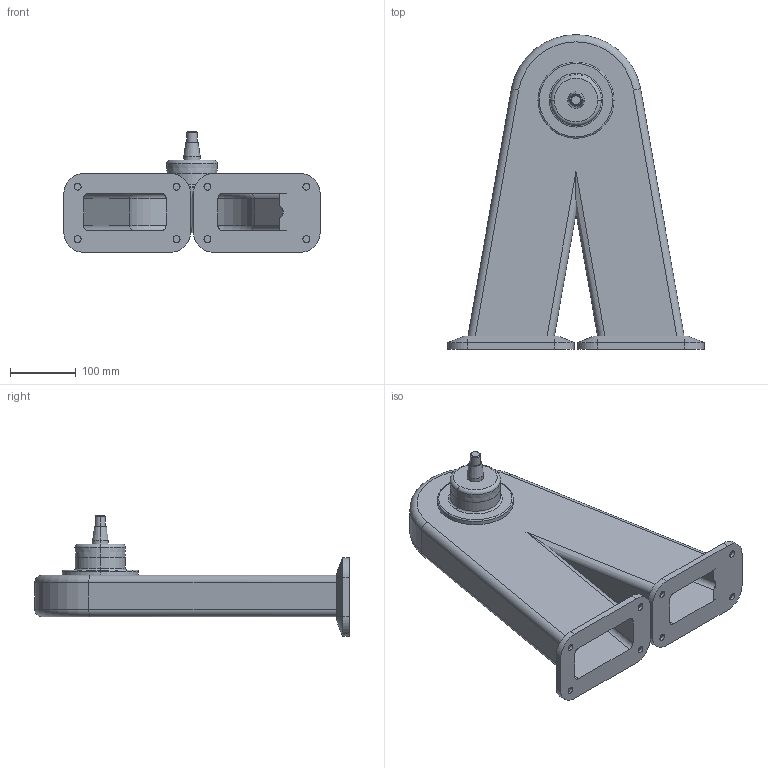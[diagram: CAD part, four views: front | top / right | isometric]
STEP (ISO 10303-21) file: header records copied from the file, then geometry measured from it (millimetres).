
FILE_DESCRIPTION (( 'STEP AP214' ), '1' );
FILE_NAME ('WP850_H380.STEP', '2014-09-08T12:38:50', ( '' ), ( '' ), 'SwSTEP 2.0', 'SolidWorks 2014', '' );
FILE_SCHEMA (( 'AUTOMOTIVE_DESIGN' ));
Length unit declared in the file: millimetre
Products named in the file (1): WP850_H380
Bounding box: 391.04 x 480 x 183.98 mm (x, y, z)
Volume: 1579106.8 mm3; surface area: 663850.5 mm2
Topology: 1 solids, 1 shells, 152 faces, 347 edges, 218 vertices
Faces by surface type: cylinder 76, plane 52, cone 14, torus 10
Entity records: 4347 total; most frequent: DIRECTION 791, CARTESIAN_POINT 778, ORIENTED_EDGE 694, EDGE_CURVE 347, AXIS2_PLACEMENT_3D 311, VERTEX_POINT 218, EDGE_LOOP 185, VECTOR 169
